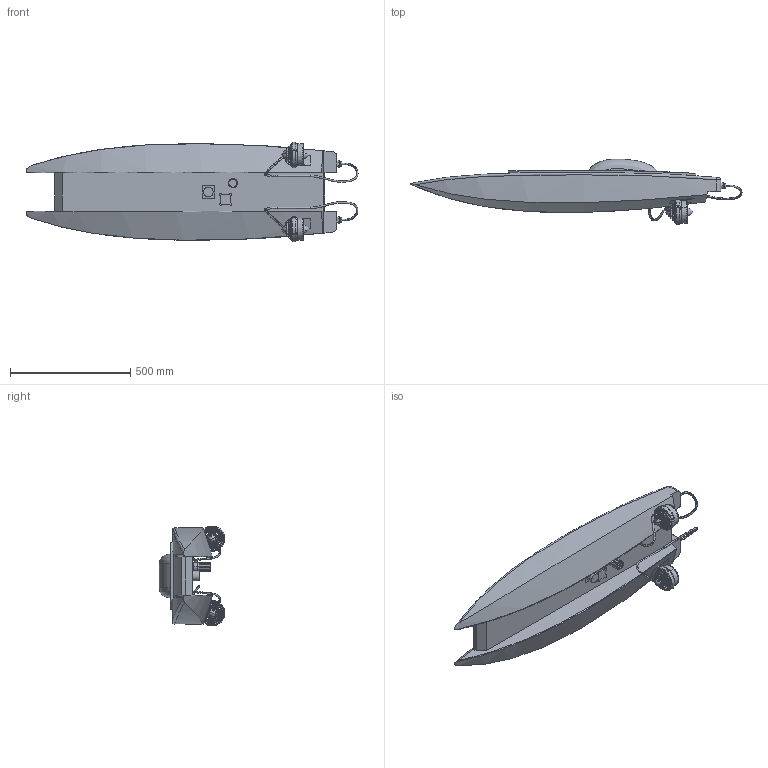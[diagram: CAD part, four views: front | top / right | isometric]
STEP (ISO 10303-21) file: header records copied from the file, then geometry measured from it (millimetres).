
FILE_DESCRIPTION (( 'STEP AP214' ), '1' );
FILE_NAME ('Lancha_dron_v2.STEP', '2022-11-25T02:28:36', ( '' ), ( '' ), 'SwSTEP 2.0', 'SolidWorks 2020', '' );
FILE_SCHEMA (( 'AUTOMOTIVE_DESIGN' ));
Length unit declared in the file: millimetre
Products named in the file (8): OBScape_rev1; filter1; thruster_filter; T200-THRUSTER-R11; Piezadsds1; Lancha_dron; Lancha_dron_v2
Assembly tree (8 placements, depth 3):
  Piezadsds1
  Lancha_dron_v2
    Lancha_dron
    OBScape_rev1
    thruster_filter
      T200-THRUSTER-R11
      filter1
    thruster_filter
      T200-THRUSTER-R11
      filter1
Bounding box: 1381.63 x 274.02 x 415.15 mm (x, y, z)
Volume: 49263307.4 mm3; surface area: 1594268.6 mm2
Topology: 32 solids, 32 shells, 4367 faces, 11748 edges, 7432 vertices
Faces by surface type: cylinder 1348, plane 1114, bspline 1061, cone 680, torus 144, sphere 20
Entity records: 142835 total; most frequent: CARTESIAN_POINT 71865, ORIENTED_EDGE 12182, DIRECTION 8180, EDGE_CURVE 6091, VERTEX_POINT 3895, AXIS2_PLACEMENT_3D 3235, EDGE_LOOP 2512, FACE_OUTER_BOUND 2284
